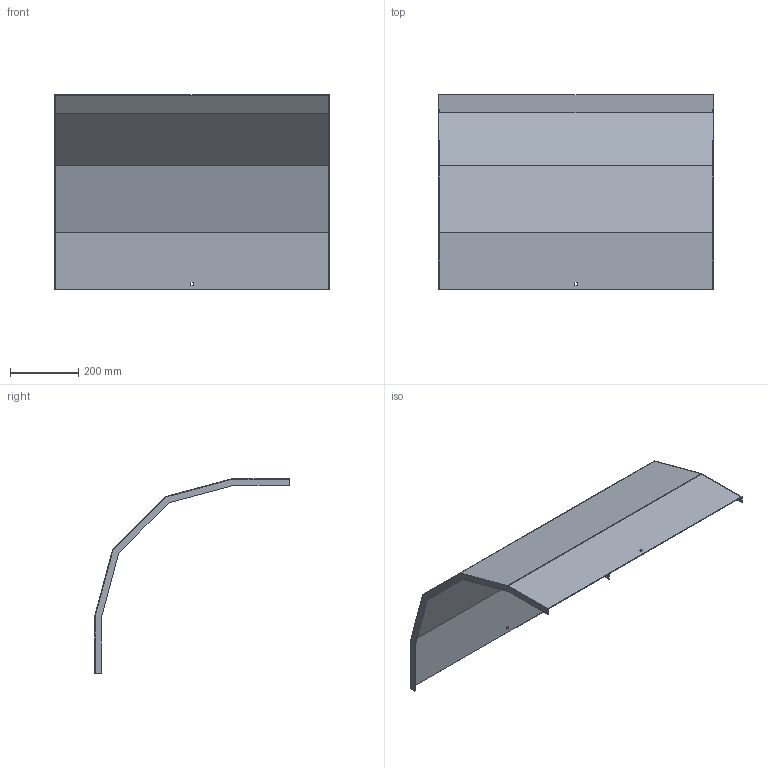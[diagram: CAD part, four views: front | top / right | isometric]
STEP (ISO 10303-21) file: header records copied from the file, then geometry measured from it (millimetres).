
FILE_DESCRIPTION (( 'STEP AP214' ), '1' );
FILE_NAME ('A2_33N3D800.step', '2025-02-21T10:45:15', ( '' ), ( '' ), 'SwSTEP 2.0', 'SolidWorks 2023', '' );
FILE_SCHEMA (( 'AUTOMOTIVE_DESIGN' ));
Length unit declared in the file: millimetre
Products named in the file (1): A2_33N3D800
Bounding box: 803 x 569.61 x 569.61 mm (x, y, z)
Volume: 1203206.7 mm3; surface area: 1609667.3 mm2
Topology: 1 solids, 1 shells, 34 faces, 96 edges, 64 vertices
Faces by surface type: plane 34
Entity records: 1111 total; most frequent: CARTESIAN_POINT 195, ORIENTED_EDGE 192, DIRECTION 166, EDGE_CURVE 96, LINE 96, VECTOR 96, VERTEX_POINT 64, EDGE_LOOP 38
